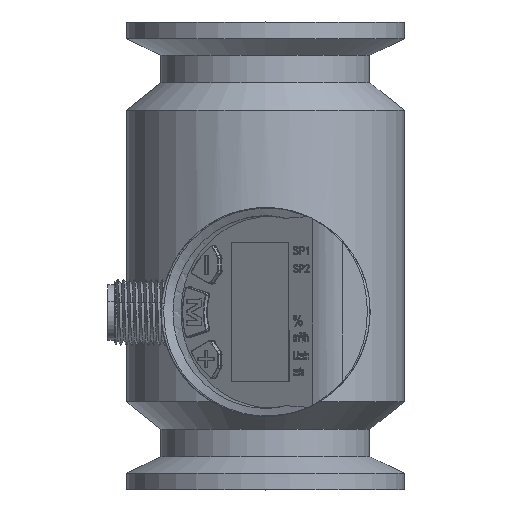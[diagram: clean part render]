
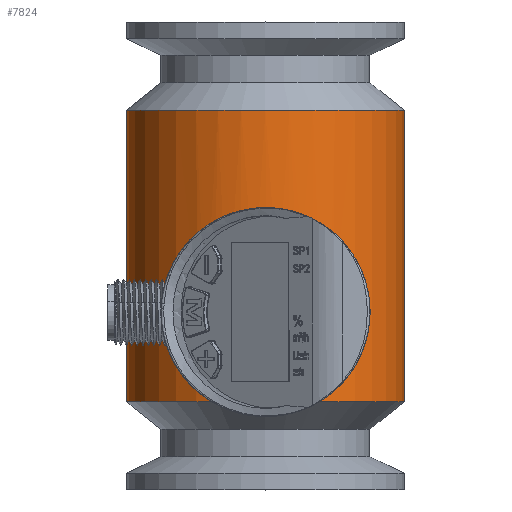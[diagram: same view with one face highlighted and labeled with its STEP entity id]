
A CAD part, top view. The second image highlights one B-rep face of the part: STEP entity #7824.
In plain terms, the highlighted cylindrical face has radius 25.25 mm (diameter 50.5 mm), a full revolution.
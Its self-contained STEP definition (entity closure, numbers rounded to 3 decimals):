
#6056=CYLINDRICAL_SURFACE('',#22858,25.25);
#6830=B_SPLINE_CURVE_WITH_KNOTS('',3,(#43099,#43100,#43101,#43102,#43103,
#43104,#43105,#43106,#43107,#43108,#43109,#43110,#43111,#43112,#43113,#43114,
#43115,#43116,#43117,#43118,#43119,#43120,#43121,#43122),.UNSPECIFIED.,
 .T.,.F.,(2,2,2,2,2,2,2,2,2,2,2,2,2,2),(-0.063,0.,0.125,0.25,
0.375,0.438,0.5,0.563,0.625,0.75,0.875,0.938,1.,1.125),.UNSPECIFIED.);
#7824=ADVANCED_FACE('',(#8675,#8676,#8677),#6056,.T.);
#8675=FACE_BOUND('',#9912,.T.);
#8676=FACE_BOUND('',#9913,.T.);
#8677=FACE_BOUND('',#9914,.T.);
#9912=EDGE_LOOP('',(#15168));
#9913=EDGE_LOOP('',(#15169));
#9914=EDGE_LOOP('',(#15170));
#10564=CIRCLE('',#22856,25.25);
#10565=CIRCLE('',#22857,25.25);
#15168=ORIENTED_EDGE('',*,*,#19207,.T.);
#15169=ORIENTED_EDGE('',*,*,#19208,.T.);
#15170=ORIENTED_EDGE('',*,*,#19209,.T.);
#16866=VERTEX_POINT('',#43123);
#16867=VERTEX_POINT('',#43125);
#16868=VERTEX_POINT('',#43127);
#19207=EDGE_CURVE('',#16866,#16866,#6830,.T.);
#19208=EDGE_CURVE('',#16867,#16867,#10564,.T.);
#19209=EDGE_CURVE('',#16868,#16868,#10565,.T.);
#22856=AXIS2_PLACEMENT_3D('',#43124,#26908,#26909);
#22857=AXIS2_PLACEMENT_3D('',#43126,#26910,#26911);
#22858=AXIS2_PLACEMENT_3D('',#43128,#26912,#26913);
#26908=DIRECTION('',(0.,1.,0.));
#26909=DIRECTION('',(1.,0.,0.));
#26910=DIRECTION('',(0.,-1.,0.));
#26911=DIRECTION('',(-1.,0.,0.));
#26912=DIRECTION('',(0.,1.,0.));
#26913=DIRECTION('',(1.,0.,0.));
#43099=CARTESIAN_POINT('',(24.357,20.674,-90.937));
#43100=CARTESIAN_POINT('',(18.998,22.349,-91.566));
#43101=CARTESIAN_POINT('',(16.379,25.232,-92.624));
#43102=CARTESIAN_POINT('',(13.298,31.827,-94.062));
#43103=CARTESIAN_POINT('',(12.79,35.709,-94.406));
#43104=CARTESIAN_POINT('',(13.918,42.985,-93.786));
#43105=CARTESIAN_POINT('',(15.535,46.48,-92.867));
#43106=CARTESIAN_POINT('',(19.501,50.188,-91.662));
#43107=CARTESIAN_POINT('',(21.112,51.173,-91.296));
#43108=CARTESIAN_POINT('',(24.708,52.162,-90.923));
#43109=CARTESIAN_POINT('',(26.637,52.125,-90.936));
#43110=CARTESIAN_POINT('',(30.179,51.031,-91.345));
#43111=CARTESIAN_POINT('',(31.776,49.995,-91.725));
#43112=CARTESIAN_POINT('',(34.36,47.458,-92.535));
#43113=CARTESIAN_POINT('',(35.397,45.929,-92.972));
#43114=CARTESIAN_POINT('',(37.713,40.98,-94.05));
#43115=CARTESIAN_POINT('',(38.222,37.093,-94.395));
#43116=CARTESIAN_POINT('',(37.093,29.81,-93.775));
#43117=CARTESIAN_POINT('',(35.473,26.312,-92.856));
#43118=CARTESIAN_POINT('',(31.501,22.605,-91.655));
#43119=CARTESIAN_POINT('',(29.893,21.622,-91.29));
#43120=CARTESIAN_POINT('',(26.281,20.635,-90.921));
#43121=CARTESIAN_POINT('',(24.357,20.674,-90.937));
#43122=CARTESIAN_POINT('',(18.998,22.349,-91.566));
#43123=CARTESIAN_POINT('',(22.571,21.232,-91.147));
#43124=CARTESIAN_POINT('',(25.516,20.4,-116.224));
#43125=CARTESIAN_POINT('',(50.766,20.4,-116.224));
#43126=CARTESIAN_POINT('',(25.516,73.4,-116.224));
#43127=CARTESIAN_POINT('',(0.266,73.4,-116.224));
#43128=CARTESIAN_POINT('',(25.516,-9.6,-116.224));
